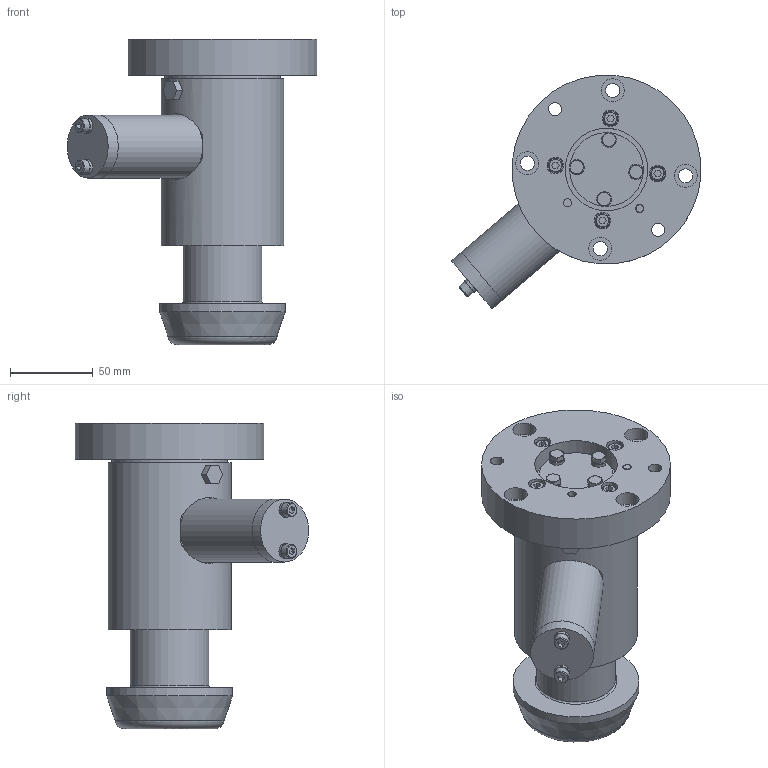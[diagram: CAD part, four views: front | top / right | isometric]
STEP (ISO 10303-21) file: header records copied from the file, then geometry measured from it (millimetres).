
FILE_DESCRIPTION(/* description */ (''),/* implementation_level */ '2;1');
FILE_NAME(/* name */ 'C:\Vault Workspace\CAD\Welker\Dimpler\WD3\Standard\WD3.stp',/* time_stamp */ '2022-06-20T10:46:54-04:00',/* author */ ('NNemeth'),/* organization */ (''),/* preprocessor_version */ 'ST-DEVELOPER v18',/* originating_system */ 'Autodesk Inventor 2020',/* authorisation */ '');
FILE_SCHEMA (('AUTOMOTIVE_DESIGN { 1 0 10303 214 3 1 1 }'));
Length unit declared in the file: millimetre
Products named in the file (1): WD3L01_STP
Bounding box: 150.84 x 141.01 x 185 mm (x, y, z)
Volume: 656767.9 mm3; surface area: 170280.5 mm2
Topology: 37 solids, 51 shells, 552 faces, 1316 edges, 909 vertices
Faces by surface type: plane 265, cylinder 165, cone 85, torus 35, sphere 2
Full cylindrical faces by diameter (mm): 2 x1, 3 x2, 4.134 x16, 5 x19, 5.4 x12, 5.5 x17, 6 x1, 7 x1, 7.2 x4, 7.95 x3, 8 x3, 8.5 x14, 9 x13, 10 x12, 10.4 x1, 11.9 x2, 12 x3, 12.6 x1, 13 x1, 14 x4, 16 x2, 18.9 x1, 19 x4, 20 x3, 24 x2, 25 x1, 26 x3, 29 x1, 30 x1, 38.1 x2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
Entity records: 17273 total; most frequent: CARTESIAN_POINT 3142, DIRECTION 3034, ORIENTED_EDGE 2548, EDGE_CURVE 1303, AXIS2_PLACEMENT_3D 1254, VERTEX_POINT 909, EDGE_LOOP 739, CIRCLE 701
